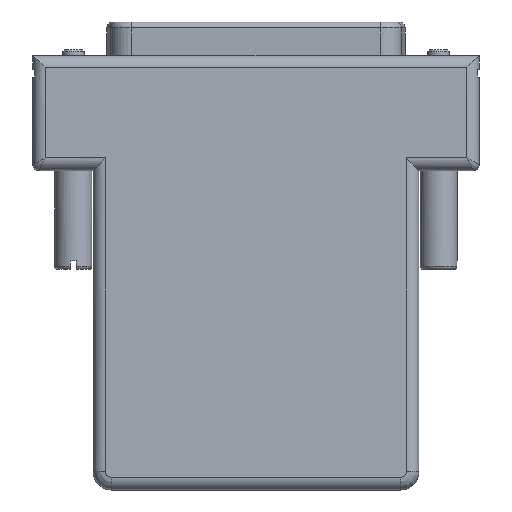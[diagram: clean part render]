
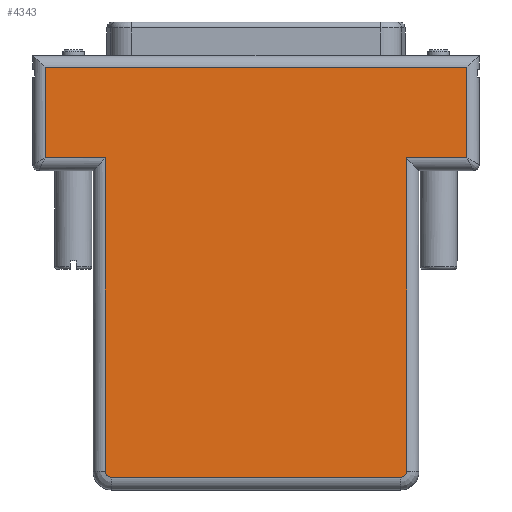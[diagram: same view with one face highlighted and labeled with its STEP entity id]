
A CAD part, front view. The second image highlights one B-rep face of the part: STEP entity #4343.
In plain terms, the highlighted planar face has unit normal (0, -0.999, 0.043).
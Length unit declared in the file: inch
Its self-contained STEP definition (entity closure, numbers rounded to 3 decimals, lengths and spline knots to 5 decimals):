
#367=ELLIPSE('',#4686,0.03103,0.031);
#369=ELLIPSE('',#4691,0.03103,0.031);
#642=VERTEX_POINT('',#6953);
#645=VERTEX_POINT('',#6961);
#654=VERTEX_POINT('',#7096);
#664=VERTEX_POINT('',#7190);
#668=VERTEX_POINT('',#7202);
#721=VERTEX_POINT('',#7407);
#723=VERTEX_POINT('',#7496);
#725=VERTEX_POINT('',#7502);
#727=VERTEX_POINT('',#7591);
#729=VERTEX_POINT('',#7600);
#1065=VECTOR('',#5358,1.);
#1076=VECTOR('',#5425,1.);
#1079=VECTOR('',#5440,1.);
#1149=VECTOR('',#5583,1.);
#1151=VECTOR('',#5595,1.);
#1152=VECTOR('',#5604,1.);
#1154=VECTOR('',#5608,1.);
#1158=VECTOR('',#5620,1.);
#1479=LINE('',#6962,#1065);
#1490=LINE('',#7189,#1076);
#1493=LINE('',#7203,#1079);
#1563=LINE('',#7410,#1149);
#1565=LINE('',#7505,#1151);
#1566=LINE('',#7596,#1152);
#1568=LINE('',#7599,#1154);
#1572=LINE('',#7610,#1158);
#1979=EDGE_CURVE('',#645,#642,#1479,.T.);
#2011=EDGE_CURVE('',#654,#664,#1490,.T.);
#2019=EDGE_CURVE('',#668,#654,#1493,.T.);
#2107=EDGE_CURVE('',#664,#721,#1563,.T.);
#2110=EDGE_CURVE('',#721,#723,#367,.T.);
#2113=EDGE_CURVE('',#723,#725,#1565,.T.);
#2116=EDGE_CURVE('',#725,#727,#369,.T.);
#2117=EDGE_CURVE('',#727,#645,#1566,.T.);
#2119=EDGE_CURVE('',#642,#729,#1568,.T.);
#2126=EDGE_CURVE('',#729,#668,#1572,.T.);
#3176=ORIENTED_EDGE('',*,*,#2107,.F.);
#3177=ORIENTED_EDGE('',*,*,#2011,.F.);
#3178=ORIENTED_EDGE('',*,*,#2019,.F.);
#3179=ORIENTED_EDGE('',*,*,#2126,.F.);
#3180=ORIENTED_EDGE('',*,*,#2119,.F.);
#3181=ORIENTED_EDGE('',*,*,#1979,.F.);
#3182=ORIENTED_EDGE('',*,*,#2117,.F.);
#3183=ORIENTED_EDGE('',*,*,#2116,.F.);
#3184=ORIENTED_EDGE('',*,*,#2113,.F.);
#3185=ORIENTED_EDGE('',*,*,#2110,.F.);
#3715=EDGE_LOOP('',(#3176,#3177,#3178,#3179,#3180,#3181,#3182,#3183,#3184,
#3185));
#4050=FACE_BOUND('',#3715,.T.);
#4343=ADVANCED_FACE('',(#4050),#8154,.T.);
#4686=AXIS2_PLACEMENT_3D('',#7499,#5588,#5589);
#4691=AXIS2_PLACEMENT_3D('',#7594,#5600,#5601);
#4702=AXIS2_PLACEMENT_3D('',#7622,#5630,$);
#5358=DIRECTION('',(-1.,0.,0.));
#5425=DIRECTION('',(-1.,0.,0.));
#5440=DIRECTION('',(0.,-0.043,-0.999));
#5583=DIRECTION('',(0.,-0.043,-0.999));
#5588=DIRECTION('',(0.,0.999,-0.043));
#5589=DIRECTION('',(0.,-0.001,-0.031));
#5595=DIRECTION('',(-1.,0.,0.));
#5600=DIRECTION('',(0.,0.999,-0.043));
#5601=DIRECTION('',(0.,-0.001,-0.031));
#5604=DIRECTION('',(0.,0.043,0.999));
#5608=DIRECTION('',(0.,0.043,0.999));
#5620=DIRECTION('',(1.,0.,0.));
#5630=DIRECTION('',(0.,-0.999,0.043));
#6953=CARTESIAN_POINT('',(-1.068,-0.30737,-0.68832));
#6961=CARTESIAN_POINT('',(-0.763,-0.30737,-0.68832));
#6962=CARTESIAN_POINT('',(-1.13294,-0.30737,-0.68832));
#7096=CARTESIAN_POINT('',(1.068,-0.30737,-0.68832));
#7189=CARTESIAN_POINT('',(-0.02149,-0.30737,-0.68832));
#7190=CARTESIAN_POINT('',(0.763,-0.30737,-0.68832));
#7202=CARTESIAN_POINT('',(1.068,-0.28755,-0.22932));
#7203=CARTESIAN_POINT('',(1.068,-0.33255,-1.27121));
#7407=CARTESIAN_POINT('',(0.763,-0.37587,-2.27432));
#7410=CARTESIAN_POINT('',(0.763,-0.34504,-1.56059));
#7496=CARTESIAN_POINT('',(0.732,-0.37721,-2.30532));
#7499=CARTESIAN_POINT('',(0.732,-0.37587,-2.27432));
#7502=CARTESIAN_POINT('',(-0.732,-0.37721,-2.30532));
#7505=CARTESIAN_POINT('',(-1.13,-0.37721,-2.30532));
#7591=CARTESIAN_POINT('',(-0.763,-0.37587,-2.27432));
#7594=CARTESIAN_POINT('',(-0.732,-0.37587,-2.27432));
#7596=CARTESIAN_POINT('',(-0.763,-0.3423,-1.49695));
#7599=CARTESIAN_POINT('',(-1.068,-0.33255,-1.27121));
#7600=CARTESIAN_POINT('',(-1.068,-0.28755,-0.22932));
#7610=CARTESIAN_POINT('',(-1.13,-0.28755,-0.22932));
#7622=CARTESIAN_POINT('',(-1.13,-0.33249,-1.27));
#8154=PLANE('',#4702);
